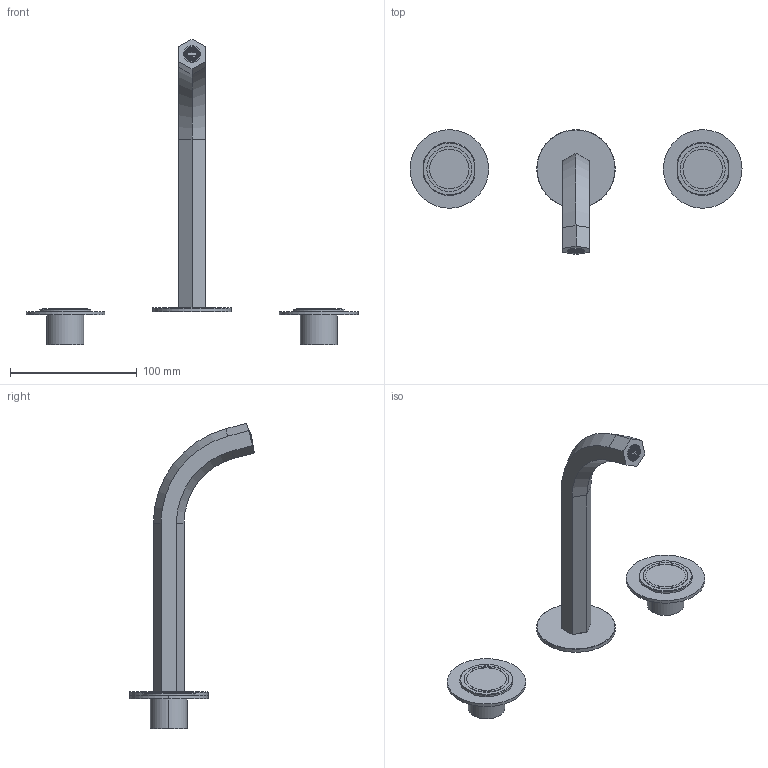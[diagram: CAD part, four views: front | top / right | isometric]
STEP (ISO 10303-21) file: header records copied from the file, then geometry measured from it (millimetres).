
FILE_DESCRIPTION((''),'2;1');
FILE_NAME('29000S713SB0000U_SW0001','2024-04-24T15:16:55',('cristian.dorz'),(''),'CREO PARAMETRIC BY PTC INC, 2022281','CREO PARAMETRIC BY PTC INC, 2022281','');
FILE_SCHEMA(('AUTOMOTIVE_DESIGN { 1 0 10303 214 1 1 1 1 }'));
Length unit declared in the file: millimetre
Products named in the file (1): 29000S713SB0000U_SW0001
Bounding box: 262 x 98.74 x 241.1 mm (x, y, z)
Volume: 151245.9 mm3; surface area: 42003.6 mm2
Topology: 3 solids, 3 shells, 446 faces, 1178 edges, 792 vertices
Faces by surface type: plane 392, cylinder 30, cone 8, torus 8, bspline 6, sphere 2
Entity records: 18139 total; most frequent: CARTESIAN_POINT 2941, DIRECTION 2482, ORIENTED_EDGE 2284, PRESENTATION_STYLE_ASSIGNMENT 1187, STYLED_ITEM 1187, CURVE_STYLE 1184, EDGE_CURVE 1142, AXIS2_PLACEMENT_3D 874
